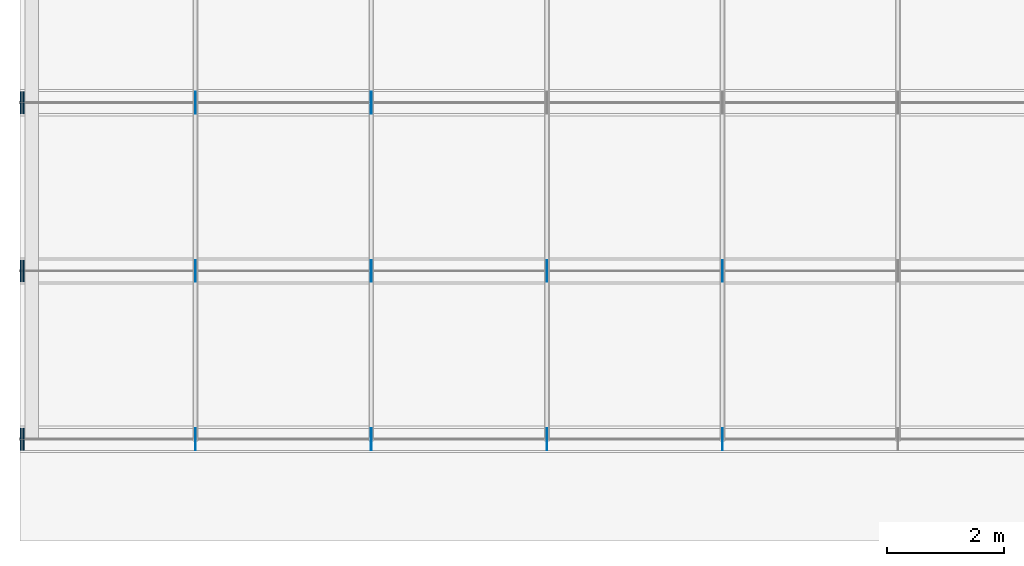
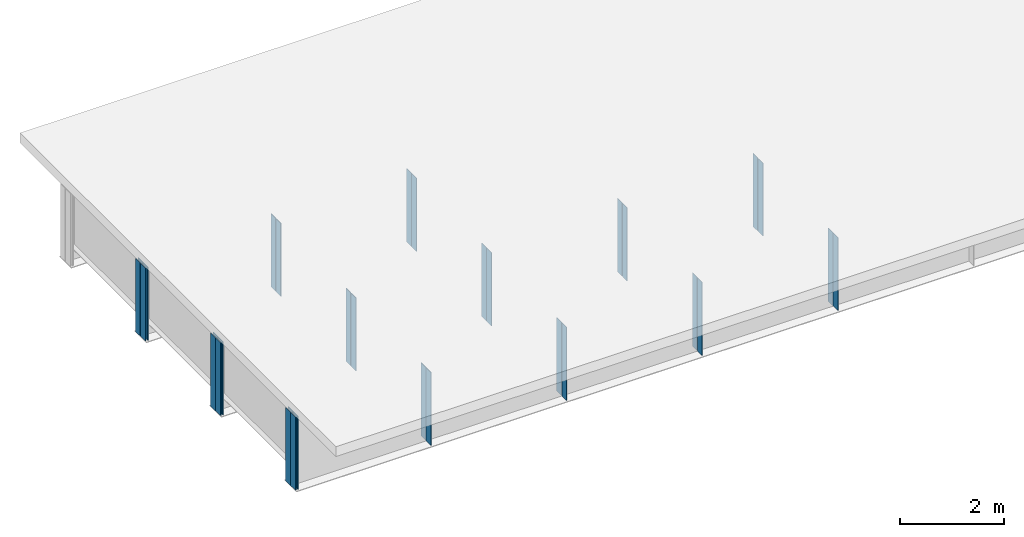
# One storey, part 2 of 11: 32 plates.
"""IFC4 building model written with IfcOpenShell, lengths in metres."""

from ifc_helpers import new_model, si_unit, frame, origin, origin_with_axes, origin_2d_with_axis, place, context, subcontext, project, spatial, rectangle, extrude, element, save


model = new_model("IFC4")

# Units and contexts
model_context = context("Model", 3, precision=1e-05, world=origin())
body_context = subcontext(model_context, "Body", "Model", "MODEL_VIEW")
ifc_project = project(units=[si_unit("LENGTHUNIT", "METRE"), si_unit("AREAUNIT", "SQUARE_METRE"), si_unit("VOLUMEUNIT", "CUBIC_METRE"), si_unit("PLANEANGLEUNIT", "RADIAN")], contexts=[model_context])

# Site, building, storey
site_placement = place(None, origin_with_axes())
site = spatial("IfcSite", under=ifc_project, at=site_placement, Name="Default Site")
building_placement = place(site_placement, origin_with_axes())
building = spatial("IfcBuilding", under=site, at=building_placement, Name="Bridge Structure")
storey_placement = place(building_placement, origin_with_axes())
storey = spatial("IfcBuildingStorey", under=building, at=storey_placement, Name="Superstructure")

# Plates
for number, where, z_axis, x_axis, name in (
    (1, (3.0, -4.21525, -0.856), (0.0, 0.0, 1.0), (1.0, 0.0, 0.0), "Intermediate Stiffener 1"),
    (2, (3.0, -4.40975, -0.856), (0.0, 0.0, 1.0), (1.0, 0.0, 0.0), "Intermediate Stiffener 1"),
    (3, (6.0, -4.21525, -0.856), (0.0, 0.0, 1.0), (1.0, 0.0, 0.0), "Intermediate Stiffener 1"),
    (4, (6.0, -4.40975, -0.856), (0.0, 0.0, 1.0), (1.0, 0.0, 0.0), "Intermediate Stiffener 1"),
    (5, (9.0, -4.21525, -0.856), (0.0, 0.0, 1.0), (1.0, 0.0, 0.0), "Intermediate Stiffener 1"),
    (6, (9.0, -4.40975, -0.856), (0.0, 0.0, 1.0), (1.0, 0.0, 0.0), "Intermediate Stiffener 1"),
    (7, (12.0, -4.21525, -0.856), (0.0, 0.0, 1.0), (1.0, 0.0, 0.0), "Intermediate Stiffener 1"),
    (8, (12.0, -4.40975, -0.856), (0.0, 0.0, 1.0), (1.0, 0.0, 0.0), "Intermediate Stiffener 1"),
):
    element("IfcPlate", number, at=place(storey_placement, frame(where, z_axis=z_axis, x_axis=x_axis)), inside=storey, Name=name, context=body_context, shape_type="SweptSolid", body=[
        extrude(rectangle(XDim=0.012, YDim=0.1805, at=origin_2d_with_axis()), origin_with_axes(), (0.0, 0.0, 1.0), 1.712),
    ])
for number, where, z_axis, x_axis, name in (
    (9, (0.01, -4.21525, -0.856), (0.0, 0.0, 1.0), (1.0, 0.0, 0.0), "End Stiffener 1"),
    (10, (0.01, -4.40975, -0.856), (0.0, 0.0, 1.0), (1.0, 0.0, 0.0), "End Stiffener 1"),
    (11, (0.06, -4.21525, -0.856), (0.0, 0.0, 1.0), (1.0, 0.0, 0.0), "End Stiffener 1"),
    (12, (0.06, -4.40975, -0.856), (0.0, 0.0, 1.0), (1.0, 0.0, 0.0), "End Stiffener 1"),
):
    element("IfcPlate", number, at=place(storey_placement, frame(where, z_axis=z_axis, x_axis=x_axis)), inside=storey, Name=name, context=body_context, shape_type="SweptSolid", body=[
        extrude(rectangle(XDim=0.02, YDim=0.1805, at=origin_2d_with_axis()), origin_with_axes(), (0.0, 0.0, 1.0), 1.712),
    ])
for number, where, z_axis, x_axis, name in (
    (13, (3.0, -1.34025, -0.856), (0.0, 0.0, 1.0), (1.0, 0.0, 0.0), "Intermediate Stiffener 2"),
    (14, (3.0, -1.53475, -0.856), (0.0, 0.0, 1.0), (1.0, 0.0, 0.0), "Intermediate Stiffener 2"),
    (15, (6.0, -1.34025, -0.856), (0.0, 0.0, 1.0), (1.0, 0.0, 0.0), "Intermediate Stiffener 2"),
    (16, (6.0, -1.53475, -0.856), (0.0, 0.0, 1.0), (1.0, 0.0, 0.0), "Intermediate Stiffener 2"),
    (17, (9.0, -1.34025, -0.856), (0.0, 0.0, 1.0), (1.0, 0.0, 0.0), "Intermediate Stiffener 2"),
    (18, (9.0, -1.53475, -0.856), (0.0, 0.0, 1.0), (1.0, 0.0, 0.0), "Intermediate Stiffener 2"),
    (19, (12.0, -1.34025, -0.856), (0.0, 0.0, 1.0), (1.0, 0.0, 0.0), "Intermediate Stiffener 2"),
    (20, (12.0, -1.53475, -0.856), (0.0, 0.0, 1.0), (1.0, 0.0, 0.0), "Intermediate Stiffener 2"),
):
    element("IfcPlate", number, at=place(storey_placement, frame(where, z_axis=z_axis, x_axis=x_axis)), inside=storey, Name=name, context=body_context, shape_type="SweptSolid", body=[
        extrude(rectangle(XDim=0.012, YDim=0.1805, at=origin_2d_with_axis()), origin_with_axes(), (0.0, 0.0, 1.0), 1.712),
    ])
for number, where, z_axis, x_axis, name in (
    (21, (0.01, -1.34025, -0.856), (0.0, 0.0, 1.0), (1.0, 0.0, 0.0), "End Stiffener 2"),
    (22, (0.01, -1.53475, -0.856), (0.0, 0.0, 1.0), (1.0, 0.0, 0.0), "End Stiffener 2"),
    (23, (0.06, -1.34025, -0.856), (0.0, 0.0, 1.0), (1.0, 0.0, 0.0), "End Stiffener 2"),
    (24, (0.06, -1.53475, -0.856), (0.0, 0.0, 1.0), (1.0, 0.0, 0.0), "End Stiffener 2"),
):
    element("IfcPlate", number, at=place(storey_placement, frame(where, z_axis=z_axis, x_axis=x_axis)), inside=storey, Name=name, context=body_context, shape_type="SweptSolid", body=[
        extrude(rectangle(XDim=0.02, YDim=0.1805, at=origin_2d_with_axis()), origin_with_axes(), (0.0, 0.0, 1.0), 1.712),
    ])
for number, where, z_axis, x_axis, name in (
    (25, (3.0, 1.53475, -0.856), (0.0, 0.0, 1.0), (1.0, 0.0, 0.0), "Intermediate Stiffener 3"),
    (26, (3.0, 1.34025, -0.856), (0.0, 0.0, 1.0), (1.0, 0.0, 0.0), "Intermediate Stiffener 3"),
    (27, (6.0, 1.53475, -0.856), (0.0, 0.0, 1.0), (1.0, 0.0, 0.0), "Intermediate Stiffener 3"),
    (28, (6.0, 1.34025, -0.856), (0.0, 0.0, 1.0), (1.0, 0.0, 0.0), "Intermediate Stiffener 3"),
):
    element("IfcPlate", number, at=place(storey_placement, frame(where, z_axis=z_axis, x_axis=x_axis)), inside=storey, Name=name, context=body_context, shape_type="SweptSolid", body=[
        extrude(rectangle(XDim=0.012, YDim=0.1805, at=origin_2d_with_axis()), origin_with_axes(), (0.0, 0.0, 1.0), 1.712),
    ])
for number, where, z_axis, x_axis, name in (
    (29, (0.01, 1.53475, -0.856), (0.0, 0.0, 1.0), (1.0, 0.0, 0.0), "End Stiffener 3"),
    (30, (0.01, 1.34025, -0.856), (0.0, 0.0, 1.0), (1.0, 0.0, 0.0), "End Stiffener 3"),
    (31, (0.06, 1.53475, -0.856), (0.0, 0.0, 1.0), (1.0, 0.0, 0.0), "End Stiffener 3"),
    (32, (0.06, 1.34025, -0.856), (0.0, 0.0, 1.0), (1.0, 0.0, 0.0), "End Stiffener 3"),
):
    element("IfcPlate", number, at=place(storey_placement, frame(where, z_axis=z_axis, x_axis=x_axis)), inside=storey, Name=name, context=body_context, shape_type="SweptSolid", body=[
        extrude(rectangle(XDim=0.02, YDim=0.1805, at=origin_2d_with_axis()), origin_with_axes(), (0.0, 0.0, 1.0), 1.712),
    ])

save(model, "model.ifc")
